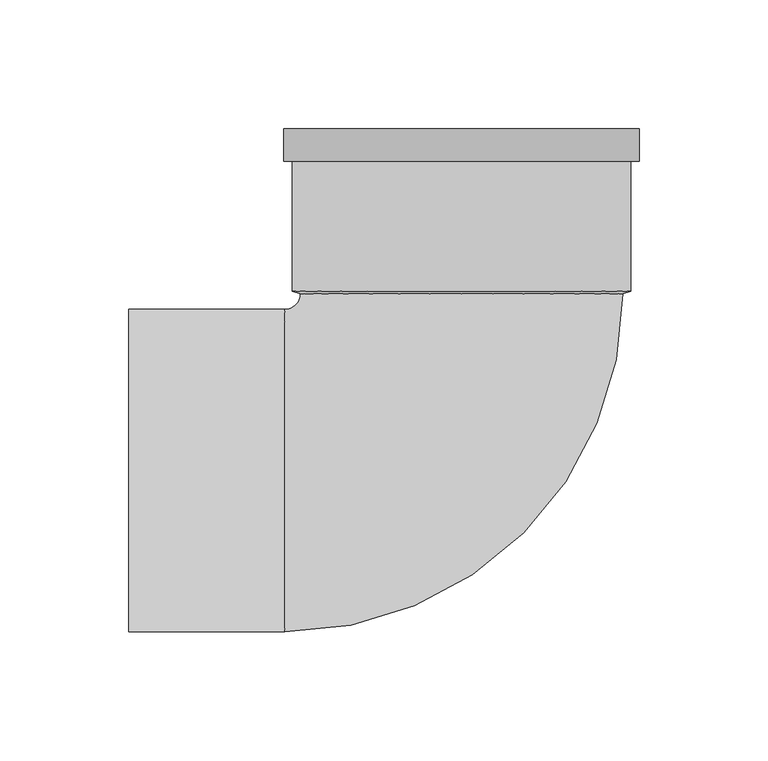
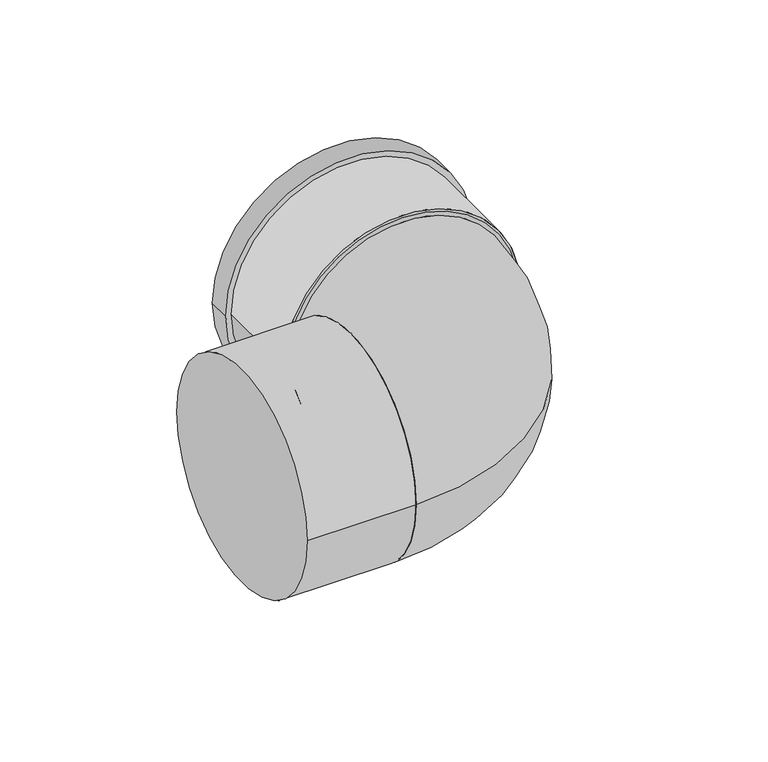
"""IFC4 building model written with IfcOpenShell, lengths in millimetres: pipe fitting geometry, Superdrain HT bend : Superdrain HT Bend."""

from ifc_helpers import new_model, si_unit, point, frame, origin, origin_2d, place, context, project, spatial, polyline, circle_curve, ellipse_curve, trimmed, segment, composite_curve, outline, extrude, source, transform, mapped, element, save
from ifc_brep_helpers import plane_surface, revolved_surface, advanced_brep


def pipe_fitting_53c34404(model_context):
    return source(origin(), model_context, "Body", "SolidModel", [
        advanced_brep(
        [(62.5, 68.5, 0.0), (-62.5, 68.5, 0.0), (-68.5, -62.5, 0.0), (-68.5, 62.5, 0.0)],
        [
            (0, 1, circle_curve(frame((0.0, 68.5, 0.0), z_axis=(0.0, 1.0, 0.0), x_axis=(-1.0, 0.0, 0.0)), 62.5)),
            (1, 0, circle_curve(frame((0.0, 68.5, 0.0), z_axis=(0.0, 1.0, 0.0), x_axis=(-1.0, 0.0, 0.0)), 62.5)),
            (2, 3, circle_curve(frame((-68.5, 0.0, 0.0), z_axis=(-1.0, 0.0, 0.0), x_axis=(0.0, 1.0, 0.0)), 62.5)),
            (3, 2, circle_curve(frame((-68.5, 0.0, 0.0), z_axis=(-1.0, 0.0, 0.0), x_axis=(0.0, 1.0, 0.0)), 62.5)),
            (3, 1, circle_curve(frame((-68.5, 68.5, 0.0), z_axis=(0.0, 0.0, 1.0), x_axis=(1.0, 0.0, 0.0)), 6.0)),
            (0, 2, circle_curve(frame((-68.5, 68.5, 0.0), z_axis=(0.0, 0.0, -1.0), x_axis=(1.0, 0.0, 0.0)), 131.0)),
        ],
        [
            plane_surface(frame((0.0, 68.5, 0.0), z_axis=(0.0, 1.0, 0.0), x_axis=(0.0, 0.0, -1.0))),
            plane_surface(frame((-68.5, 0.0, 0.0), z_axis=(-1.0, 0.0, 0.0), x_axis=(0.0, 0.0, -1.0))),
            revolved_surface(trimmed(ellipse_curve(frame((0.0, 68.5, 0.0), z_axis=(0.0, -1.0, 0.0), x_axis=(-1.0, 0.0, 0.0)), 62.5, 62.5), [point((-62.5, 68.5, 0.0))], [point((62.5, 68.5, 0.0))], True, "CARTESIAN"), (-68.5, 68.5, 0.0), (0.0, 0.0, 1.0)),
            revolved_surface(trimmed(ellipse_curve(frame((0.0, 68.5, 0.0), z_axis=(0.0, -1.0, 0.0), x_axis=(-1.0, 0.0, 0.0)), 62.5, 62.5), [point((62.5, 68.5, 0.0))], [point((-62.5, 68.5, 0.0))], True, "CARTESIAN"), (-68.5, 68.5, 0.0), (0.0, 0.0, 1.0)),
        ],
        [
            (0, [[1, 2]]),
            (1, [[3, 4]]),
            (2, [[-4, 5, -1, 6]]),
            (3, [[-3, -6, -2, -5]]),
        ],
    ),
        extrude(outline(composite_curve([segment(trimmed(circle_curve(origin_2d(), 65.625), [point((0.0, 65.625))], [point((0.0, -65.625))], False, "CARTESIAN"), True, "CONTINUOUS"), segment(trimmed(circle_curve(origin_2d(), 65.625), [point((0.0, -65.625))], [point((0.0, 65.625))], False, "CARTESIAN"), True, "CONTINUOUS")], self_intersect=False), holes=[composite_curve([segment(trimmed(circle_curve(origin_2d(), 62.5), [point((0.0, 62.5))], [point((0.0, -62.5))], True, "CARTESIAN"), True, "CONTINUOUS"), segment(trimmed(circle_curve(origin_2d(), 62.5), [point((0.0, -62.5))], [point((0.0, 62.5))], True, "CARTESIAN"), True, "CONTINUOUS")], self_intersect=False)]), frame((0.0, 69.5, 0.0), z_axis=(0.0, 1.0, 0.0), x_axis=(0.0, 0.0, 1.0)), (0.0, 0.0, 1.0), 63.0),
        extrude(outline(composite_curve([segment(trimmed(circle_curve(origin_2d(), 68.90625), [point((0.0, -68.90625))], [point((0.0, 68.90625))], False, "CARTESIAN"), True, "CONTINUOUS"), segment(trimmed(circle_curve(origin_2d(), 68.90625), [point((0.0, 68.90625))], [point((0.0, -68.90625))], False, "CARTESIAN"), True, "CONTINUOUS")], self_intersect=False), holes=[composite_curve([segment(trimmed(circle_curve(origin_2d(), 62.5), [point((0.0, -62.5))], [point((0.0, 62.5))], True, "CARTESIAN"), True, "CONTINUOUS"), segment(trimmed(circle_curve(origin_2d(), 62.5), [point((0.0, 62.5))], [point((0.0, -62.5))], True, "CARTESIAN"), True, "CONTINUOUS")], self_intersect=False)]), frame((0.0, 119.9, 0.0), z_axis=(0.0, 1.0, 0.0), x_axis=(0.0, 0.0, 1.0)), (0.0, 0.0, 1.0), 12.6),
        advanced_brep(
        [(65.625, 69.5, 0.0), (-65.625, 69.5, 0.0), (62.5, 68.5, 0.0), (-62.5, 68.5, 0.0)],
        [
            (0, 1, circle_curve(frame((0.0, 69.5, 0.0), z_axis=(0.0, 1.0, 0.0), x_axis=(1.0, 0.0, 0.0)), 65.625)),
            (1, 0, circle_curve(frame((0.0, 69.5, 0.0), z_axis=(0.0, 1.0, 0.0), x_axis=(-1.0, 0.0, 0.0)), 65.625)),
            (2, 3, circle_curve(frame((0.0, 68.5, 0.0), z_axis=(0.0, -1.0, 0.0), x_axis=(-1.0, 0.0, 0.0)), 62.5)),
            (3, 2, circle_curve(frame((0.0, 68.5, 0.0), z_axis=(0.0, -1.0, 0.0), x_axis=(1.0, 0.0, 0.0)), 62.5)),
            (3, 1),
            (0, 2),
        ],
        [
            plane_surface(frame((0.0, 69.5, 0.0), z_axis=(0.0, 1.0, 0.0), x_axis=(0.0, 0.0, -1.0))),
            plane_surface(frame((0.0, 68.5, 0.0), z_axis=(0.0, -1.0, 0.0), x_axis=(0.0, 0.0, -1.0))),
            revolved_surface(polyline([(-62.5, 68.5, 0.0), (-65.625, 69.5, 0.0)]), (0.0, 48.5, 0.0), (0.0, 1.0, 0.0)),
            revolved_surface(polyline([(62.5, 68.5, 0.0), (65.625, 69.5, 0.0)]), (0.0, 48.5, 0.0), (0.0, 1.0, 0.0)),
        ],
        [
            (0, [[1, 2]]),
            (1, [[3, 4]]),
            (2, [[-4, 5, -1, 6]]),
            (3, [[-3, -6, -2, -5]]),
        ],
    ),
        extrude(outline(composite_curve([segment(trimmed(circle_curve(origin_2d(), 62.5), [point((-62.5, 0.0))], [point((62.5, 0.0))], False, "CARTESIAN"), True, "CONTINUOUS"), segment(trimmed(circle_curve(origin_2d(), 62.5), [point((62.5, 0.0))], [point((-62.5, 0.0))], False, "CARTESIAN"), True, "CONTINUOUS")], self_intersect=False)), frame((-129.0, 0.0, 0.0), z_axis=(1.0, 0.0, 0.0), x_axis=(0.0, 1.0, 0.0)), (0.0, 0.0, 1.0), 60.5),
    ])


if __name__ == "__main__":
    model = new_model("IFC4")
    model_context = context("Model", 3, world=origin())
    ifc_project = project(units=[si_unit("LENGTHUNIT", "METRE", prefix="MILLI")], contexts=[model_context])
    site = spatial("IfcSite", under=ifc_project)
    building = spatial("IfcBuilding", under=site)
    placement = place(None, origin())
    pipe_fitting_shape = pipe_fitting_53c34404(model_context)
    element("IfcPipeFitting", 1, ObjectType="Superdrain HT bend : Superdrain HT Bend", at=placement, inside=building, context=model_context, shape_type="MappedRepresentation", body=[
        mapped(pipe_fitting_shape, transform((0.0, 0.0, 0.0), x_axis=(1.0, 0.0, 0.0), y_axis=(0.0, 1.0, 0.0), z_axis=(0.0, 0.0, 1.0))),
    ])
    save(model, "model.ifc")
